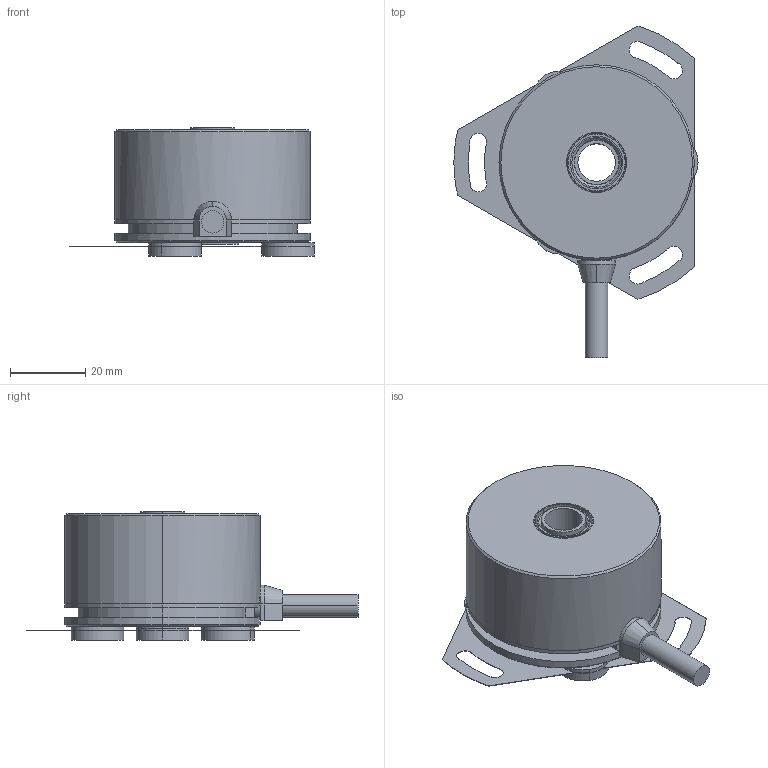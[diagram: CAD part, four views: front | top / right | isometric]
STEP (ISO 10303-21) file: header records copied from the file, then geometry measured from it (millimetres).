
FILE_DESCRIPTION(('STEP AP203'),'1');
FILE_NAME('//192.168.0.150/share/技術部/4.営業関連/1_CAD図面/1_3D/4_step/MAH-42_平ﾌﾗﾝｼﾞ付.step','2018-12-12T01:28:01',(' '),(' '),'Spatial InterOp 3D',' ',' ');
FILE_SCHEMA(('CONFIG_CONTROL_DESIGN'));
Length unit declared in the file: millimetre
Products named in the file (22): 1; 2; 3; 4; 5; 6; 7; 8; 9; 10; 11; 12; 13; 14; 15; 16; 17; 18; 19; 20; 21; 22
Bounding box: 65 x 88.37 x 34.1 mm (x, y, z)
Volume: 21586.5 mm3; surface area: 33278.1 mm2
Topology: 22 solids, 22 shells, 317 faces, 731 edges, 470 vertices
Faces by surface type: cylinder 156, plane 105, cone 52, torus 4
Entity records: 10403 total; most frequent: CARTESIAN_POINT 1888, DIRECTION 1743, ORIENTED_EDGE 1450, EDGE_CURVE 725, AXIS2_PLACEMENT_3D 713, VERTEX_POINT 470, EDGE_LOOP 383, CIRCLE 374
